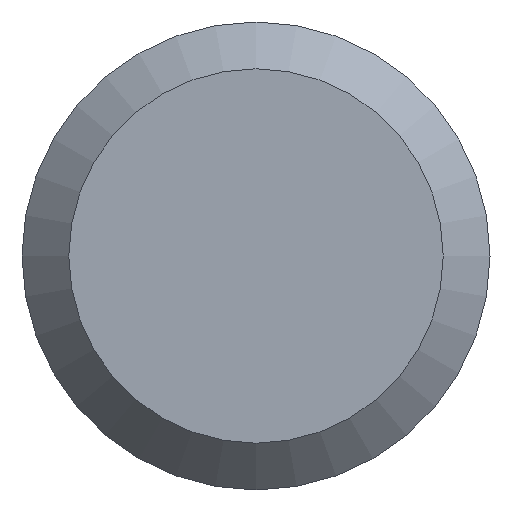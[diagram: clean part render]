
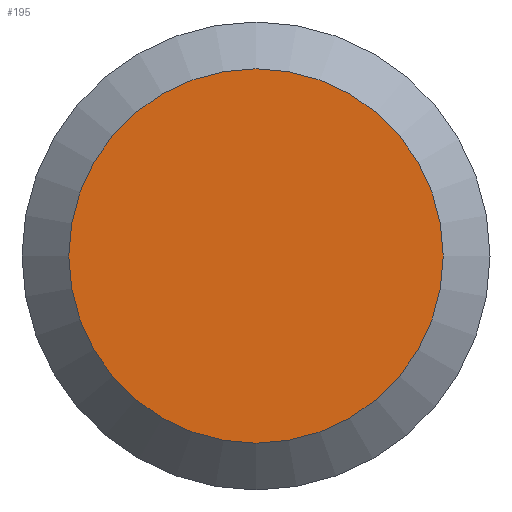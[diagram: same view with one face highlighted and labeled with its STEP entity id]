
A CAD part, left-side view. The second image highlights one B-rep face of the part: STEP entity #195.
In plain terms, the highlighted planar face has unit normal (-1, 0, 0).
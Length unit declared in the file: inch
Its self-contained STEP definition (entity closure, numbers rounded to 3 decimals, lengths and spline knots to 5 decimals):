
#7 = CARTESIAN_POINT ( 'NONE',  ( 0., 0.23438, 0. ) ) ;
#12 = CIRCLE ( 'NONE', #248, 0.1875 ) ;
#14 = PLANE ( 'NONE',  #228 ) ;
#20 = EDGE_LOOP ( 'NONE', ( #37 ) ) ;
#26 = DIRECTION ( 'NONE',  ( 0., 0., -1. ) ) ;
#37 = ORIENTED_EDGE ( 'NONE', *, *, #239, .T. ) ;
#44 = DIRECTION ( 'NONE',  ( 1., 0., 0. ) ) ;
#55 = CARTESIAN_POINT ( 'NONE',  ( 0., 0., 0. ) ) ;
#75 = CARTESIAN_POINT ( 'NONE',  ( 0., 0., -0.1875 ) ) ;
#96 = FACE_OUTER_BOUND ( 'NONE', #20, .T. ) ;
#119 = DIRECTION ( 'NONE',  ( 0., 0., -1. ) ) ;
#139 = DIRECTION ( 'NONE',  ( -1., 0., 0. ) ) ;
#149 = VERTEX_POINT ( 'NONE', #75 ) ;
#195 = ADVANCED_FACE ( 'NONE', ( #96 ), #14, .F. ) ;
#228 = AXIS2_PLACEMENT_3D ( 'NONE', #7, #44, #26 ) ;
#239 = EDGE_CURVE ( 'NONE', #149, #149, #12, .T. ) ;
#248 = AXIS2_PLACEMENT_3D ( 'NONE', #55, #139, #119 ) ;
